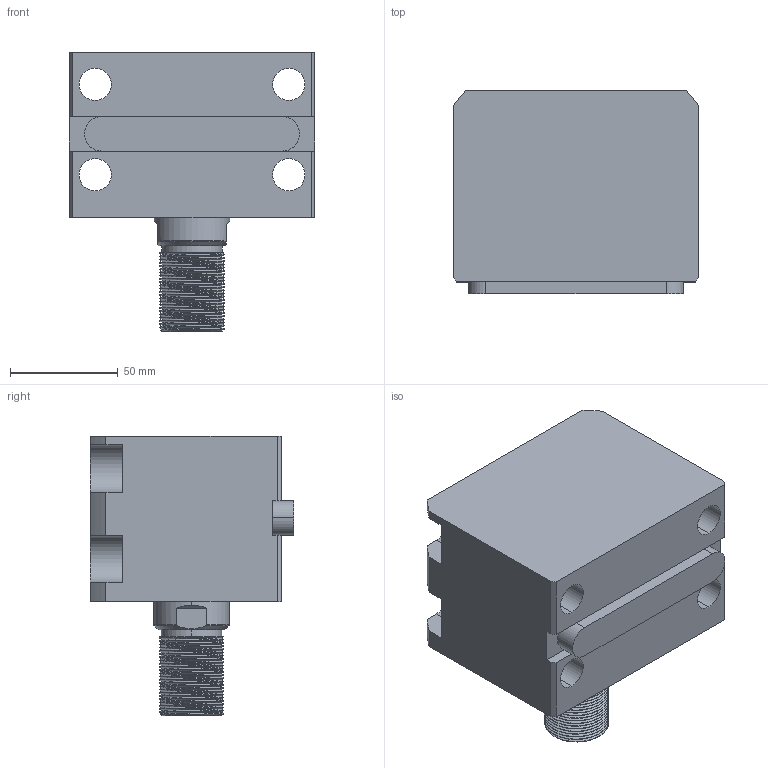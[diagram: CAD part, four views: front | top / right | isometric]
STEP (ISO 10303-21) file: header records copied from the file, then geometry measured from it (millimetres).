
FILE_DESCRIPTION (( 'STEP AP214' ), '1' );
FILE_NAME ('chtb-la63x10w_asm.STEP', '2018-05-17T02:51:59', ( 'Windows' ), ( 'Microsoft' ), 'SwSTEP 2.0', 'SolidWorks 2015', '' );
FILE_SCHEMA (( 'AUTOMOTIVE_DESIGN' ));
Length unit declared in the file: millimetre
Products named in the file (5): CHTB-LA63X10NBT; CHTB-LA63PJ; CHTB63X10WHSG; CHTB-63QG; chtb-la63x10w_asm
Assembly tree (4 placements, depth 2):
  chtb-la63x10w_asm
    CHTB-63QG
    CHTB63X10WHSG
    CHTB-LA63PJ
    CHTB-LA63X10NBT
Bounding box: 114 x 94.5 x 130 mm (x, y, z)
Volume: 720403.1 mm3; surface area: 129003.4 mm2
Topology: 4 solids, 4 shells, 228 faces, 670 edges, 457 vertices
Faces by surface type: cylinder 147, plane 48, bspline 14, cone 13, torus 6
Entity records: 22769 total; most frequent: CARTESIAN_POINT 17126, ORIENTED_EDGE 1332, DIRECTION 940, EDGE_CURVE 666, VERTEX_POINT 457, AXIS2_PLACEMENT_3D 350, EDGE_LOOP 253, LINE 240
